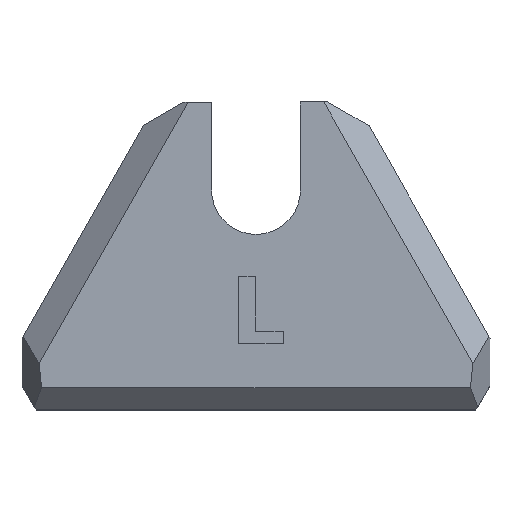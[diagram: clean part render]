
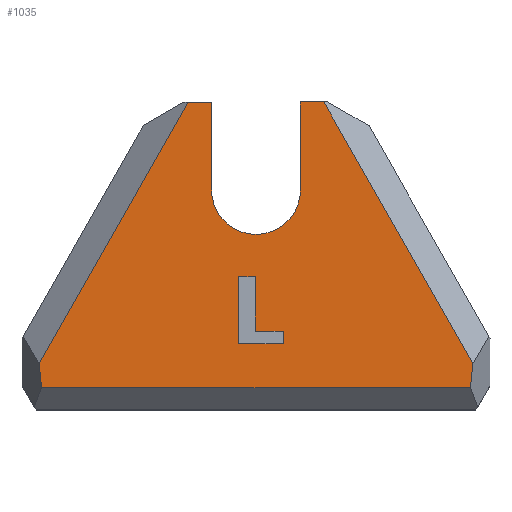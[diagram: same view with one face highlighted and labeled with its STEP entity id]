
A CAD part, top view. The second image highlights one B-rep face of the part: STEP entity #1035.
In plain terms, the highlighted planar face has unit normal (0, 0, 1).
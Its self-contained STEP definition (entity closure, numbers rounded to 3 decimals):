
#28=FACE_BOUND('',#126,.T.);
#49=CIRCLE('',#1096,4.05);
#67=FACE_OUTER_BOUND('',#125,.T.);
#125=EDGE_LOOP('',(#772,#773,#774,#775,#776,#777,#778,#779,#780,#781));
#126=EDGE_LOOP('',(#782,#783,#784,#785,#786,#787));
#184=LINE('',#1403,#312);
#208=LINE('',#1468,#336);
#212=LINE('',#1477,#340);
#227=LINE('',#1505,#355);
#233=LINE('',#1518,#361);
#235=LINE('',#1521,#363);
#236=LINE('',#1523,#364);
#237=LINE('',#1525,#365);
#238=LINE('',#1528,#366);
#239=LINE('',#1531,#367);
#240=LINE('',#1533,#368);
#241=LINE('',#1535,#369);
#242=LINE('',#1537,#370);
#243=LINE('',#1539,#371);
#244=LINE('',#1540,#372);
#312=VECTOR('',#1154,10.);
#336=VECTOR('',#1188,10.);
#340=VECTOR('',#1194,10.);
#355=VECTOR('',#1215,10.);
#361=VECTOR('',#1229,10.);
#363=VECTOR('',#1233,10.);
#364=VECTOR('',#1234,10.);
#365=VECTOR('',#1235,10.);
#366=VECTOR('',#1238,10.);
#367=VECTOR('',#1239,10.);
#368=VECTOR('',#1240,10.);
#369=VECTOR('',#1241,10.);
#370=VECTOR('',#1242,10.);
#371=VECTOR('',#1243,10.);
#372=VECTOR('',#1244,10.);
#438=VERTEX_POINT('',#1400);
#439=VERTEX_POINT('',#1402);
#463=VERTEX_POINT('',#1467);
#466=VERTEX_POINT('',#1474);
#467=VERTEX_POINT('',#1476);
#477=VERTEX_POINT('',#1503);
#480=VERTEX_POINT('',#1517);
#481=VERTEX_POINT('',#1522);
#482=VERTEX_POINT('',#1524);
#483=VERTEX_POINT('',#1526);
#484=VERTEX_POINT('',#1529);
#485=VERTEX_POINT('',#1530);
#486=VERTEX_POINT('',#1532);
#487=VERTEX_POINT('',#1534);
#488=VERTEX_POINT('',#1536);
#489=VERTEX_POINT('',#1538);
#540=EDGE_CURVE('',#438,#439,#184,.T.);
#568=EDGE_CURVE('',#439,#463,#208,.T.);
#572=EDGE_CURVE('',#466,#467,#212,.T.);
#587=EDGE_CURVE('',#477,#466,#227,.T.);
#593=EDGE_CURVE('',#480,#463,#233,.T.);
#595=EDGE_CURVE('',#467,#438,#235,.T.);
#596=EDGE_CURVE('',#477,#481,#236,.T.);
#597=EDGE_CURVE('',#481,#482,#237,.T.);
#598=EDGE_CURVE('',#482,#483,#49,.T.);
#599=EDGE_CURVE('',#483,#480,#238,.T.);
#600=EDGE_CURVE('',#484,#485,#239,.T.);
#601=EDGE_CURVE('',#485,#486,#240,.T.);
#602=EDGE_CURVE('',#486,#487,#241,.T.);
#603=EDGE_CURVE('',#487,#488,#242,.T.);
#604=EDGE_CURVE('',#488,#489,#243,.T.);
#605=EDGE_CURVE('',#489,#484,#244,.T.);
#772=ORIENTED_EDGE('',*,*,#540,.F.);
#773=ORIENTED_EDGE('',*,*,#595,.F.);
#774=ORIENTED_EDGE('',*,*,#572,.F.);
#775=ORIENTED_EDGE('',*,*,#587,.F.);
#776=ORIENTED_EDGE('',*,*,#596,.T.);
#777=ORIENTED_EDGE('',*,*,#597,.T.);
#778=ORIENTED_EDGE('',*,*,#598,.T.);
#779=ORIENTED_EDGE('',*,*,#599,.T.);
#780=ORIENTED_EDGE('',*,*,#593,.T.);
#781=ORIENTED_EDGE('',*,*,#568,.F.);
#782=ORIENTED_EDGE('',*,*,#600,.T.);
#783=ORIENTED_EDGE('',*,*,#601,.T.);
#784=ORIENTED_EDGE('',*,*,#602,.T.);
#785=ORIENTED_EDGE('',*,*,#603,.T.);
#786=ORIENTED_EDGE('',*,*,#604,.T.);
#787=ORIENTED_EDGE('',*,*,#605,.T.);
#988=PLANE('',#1095);
#1035=ADVANCED_FACE('',(#67,#28),#988,.T.);
#1095=AXIS2_PLACEMENT_3D('',#1520,#1231,#1232);
#1096=AXIS2_PLACEMENT_3D('',#1527,#1236,#1237);
#1154=DIRECTION('',(-0.103,0.995,0.));
#1188=DIRECTION('',(0.495,0.869,0.));
#1194=DIRECTION('',(-0.103,-0.995,0.));
#1215=DIRECTION('',(0.495,-0.869,0.));
#1229=DIRECTION('',(-1.,-0.001,0.));
#1231=DIRECTION('center_axis',(0.,0.,1.));
#1232=DIRECTION('ref_axis',(1.,0.,0.));
#1233=DIRECTION('',(-1.,0.,0.));
#1234=DIRECTION('',(-1.,-0.001,0.));
#1235=DIRECTION('',(0.001,-1.,0.));
#1236=DIRECTION('center_axis',(0.,0.,-1.));
#1237=DIRECTION('ref_axis',(1.,0.,0.));
#1238=DIRECTION('',(-0.001,1.,0.));
#1239=DIRECTION('',(0.,-1.,0.));
#1240=DIRECTION('',(-1.,0.,0.));
#1241=DIRECTION('',(0.,1.,0.));
#1242=DIRECTION('',(1.,0.,0.));
#1243=DIRECTION('',(0.,-1.,0.));
#1244=DIRECTION('',(1.,0.,0.));
#1400=CARTESIAN_POINT('',(-19.508,103.635,15.));
#1402=CARTESIAN_POINT('',(-19.734,105.828,15.));
#1403=CARTESIAN_POINT('',(-20.252,110.844,15.));
#1467=CARTESIAN_POINT('',(-6.177,129.631,15.));
#1468=CARTESIAN_POINT('',(-9.37,124.025,15.));
#1474=CARTESIAN_POINT('',(19.734,105.828,15.));
#1476=CARTESIAN_POINT('',(19.508,103.635,15.));
#1477=CARTESIAN_POINT('',(20.142,109.781,15.));
#1503=CARTESIAN_POINT('',(6.168,129.639,15.));
#1505=CARTESIAN_POINT('',(17.295,110.108,15.));
#1517=CARTESIAN_POINT('',(-4.055,129.632,15.));
#1518=CARTESIAN_POINT('',(-4.055,129.632,15.));
#1520=CARTESIAN_POINT('Origin',(-0.186,113.012,15.));
#1521=CARTESIAN_POINT('',(8.434,103.635,15.));
#1522=CARTESIAN_POINT('',(4.045,129.638,15.));
#1523=CARTESIAN_POINT('',(9.045,129.641,15.));
#1524=CARTESIAN_POINT('',(4.05,121.643,15.));
#1525=CARTESIAN_POINT('',(4.045,129.638,15.));
#1526=CARTESIAN_POINT('',(-4.05,121.635,15.));
#1527=CARTESIAN_POINT('Origin',(0.,121.64,15.));
#1528=CARTESIAN_POINT('',(-4.05,121.635,15.));
#1529=CARTESIAN_POINT('',(2.481,108.795,15.));
#1530=CARTESIAN_POINT('',(2.481,107.634,15.));
#1531=CARTESIAN_POINT('',(2.481,110.904,15.));
#1532=CARTESIAN_POINT('',(-1.587,107.634,15.));
#1533=CARTESIAN_POINT('',(1.148,107.634,15.));
#1534=CARTESIAN_POINT('',(-1.587,113.734,15.));
#1535=CARTESIAN_POINT('',(-1.587,110.323,15.));
#1536=CARTESIAN_POINT('',(-0.055,113.734,15.));
#1537=CARTESIAN_POINT('',(-0.886,113.734,15.));
#1538=CARTESIAN_POINT('',(-0.055,108.795,15.));
#1539=CARTESIAN_POINT('',(-0.055,113.373,15.));
#1540=CARTESIAN_POINT('',(-0.12,108.795,15.));
